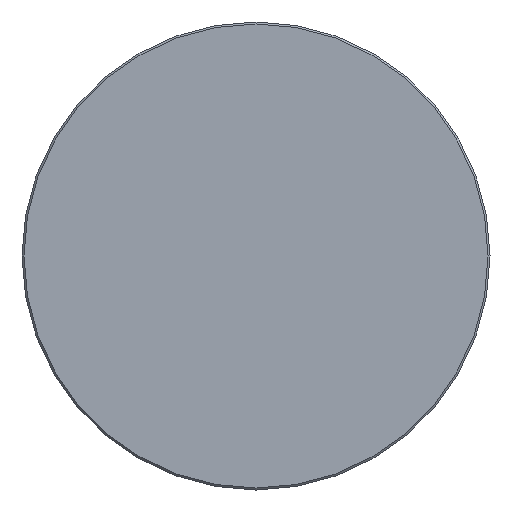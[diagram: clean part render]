
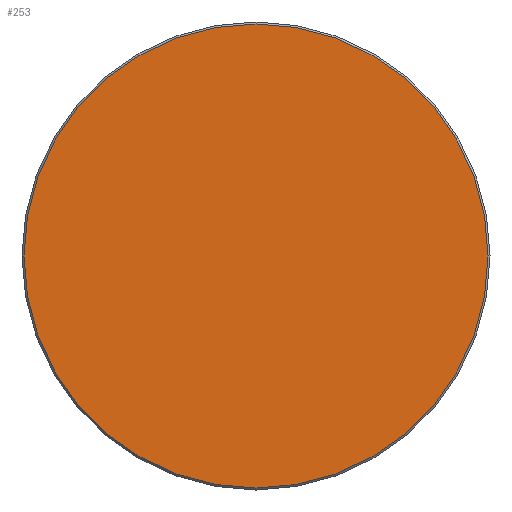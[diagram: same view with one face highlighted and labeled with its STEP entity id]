
A CAD part, left-side view. The second image highlights one B-rep face of the part: STEP entity #253.
In plain terms, the highlighted planar face has unit normal (-1, 0, 0).
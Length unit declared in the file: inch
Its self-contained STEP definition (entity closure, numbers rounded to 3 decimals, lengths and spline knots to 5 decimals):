
#19 = EDGE_CURVE ( 'NONE', #78, #231, #81, .T. ) ;
#28 = DIRECTION ( 'NONE',  ( 0., -1., 0. ) ) ;
#32 = CARTESIAN_POINT ( 'NONE',  ( 0., 0.46475, 0. ) ) ;
#78 = VERTEX_POINT ( 'NONE', #32 ) ;
#81 = CIRCLE ( 'NONE', #229, 0.46475 ) ;
#109 = ORIENTED_EDGE ( 'NONE', *, *, #19, .T. ) ;
#123 = DIRECTION ( 'NONE',  ( 0., -1., 0. ) ) ;
#124 = DIRECTION ( 'NONE',  ( 0., -1., 0. ) ) ;
#137 = EDGE_LOOP ( 'NONE', ( #109, #358 ) ) ;
#167 = CIRCLE ( 'NONE', #335, 0.46475 ) ;
#204 = CARTESIAN_POINT ( 'NONE',  ( 0., 0., 0. ) ) ;
#208 = FACE_OUTER_BOUND ( 'NONE', #137, .T. ) ;
#212 = CARTESIAN_POINT ( 'NONE',  ( 0., 0., 0. ) ) ;
#218 = AXIS2_PLACEMENT_3D ( 'NONE', #212, #329, #124 ) ;
#229 = AXIS2_PLACEMENT_3D ( 'NONE', #204, #377, #28 ) ;
#231 = VERTEX_POINT ( 'NONE', #354 ) ;
#245 = DIRECTION ( 'NONE',  ( -1., 0., 0. ) ) ;
#253 = ADVANCED_FACE ( 'NONE', ( #208 ), #302, .T. ) ;
#255 = CARTESIAN_POINT ( 'NONE',  ( 0., 0., 0. ) ) ;
#264 = EDGE_CURVE ( 'NONE', #231, #78, #167, .T. ) ;
#302 = PLANE ( 'NONE',  #218 ) ;
#329 = DIRECTION ( 'NONE',  ( -1., 0., 0. ) ) ;
#335 = AXIS2_PLACEMENT_3D ( 'NONE', #255, #245, #123 ) ;
#354 = CARTESIAN_POINT ( 'NONE',  ( 0., -0.46475, 0. ) ) ;
#358 = ORIENTED_EDGE ( 'NONE', *, *, #264, .T. ) ;
#377 = DIRECTION ( 'NONE',  ( -1., 0., 0. ) ) ;
